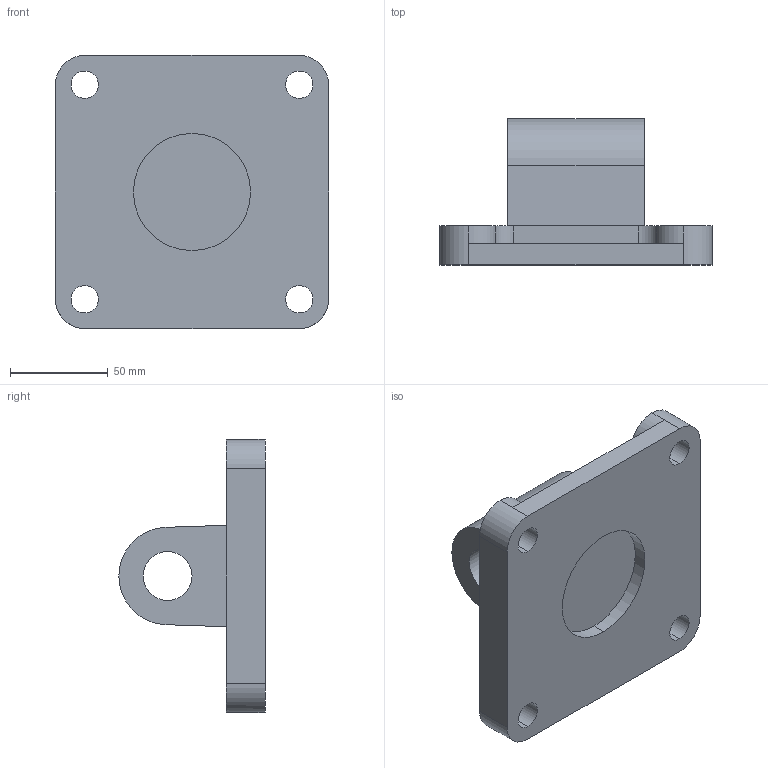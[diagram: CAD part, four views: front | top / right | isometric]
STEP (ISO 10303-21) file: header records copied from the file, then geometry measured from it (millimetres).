
FILE_DESCRIPTION (( 'STEP AP214' ), '1' );
FILE_NAME ('SFI-125.STEP', '2013-09-11T08:22:40', ( '' ), ( '' ), 'SwSTEP 2.0', 'SolidWorks 2009', '' );
FILE_SCHEMA (( 'AUTOMOTIVE_DESIGN' ));
Length unit declared in the file: millimetre
Products named in the file (1): SFI-125
Bounding box: 140 x 75 x 140 mm (x, y, z)
Volume: 468144 mm3; surface area: 69678.1 mm2
Topology: 1 solids, 1 shells, 50 faces, 124 edges, 82 vertices
Faces by surface type: cylinder 31, plane 19
Entity records: 1570 total; most frequent: DIRECTION 290, CARTESIAN_POINT 257, ORIENTED_EDGE 248, EDGE_CURVE 124, AXIS2_PLACEMENT_3D 115, VERTEX_POINT 82, EDGE_LOOP 66, CIRCLE 64
